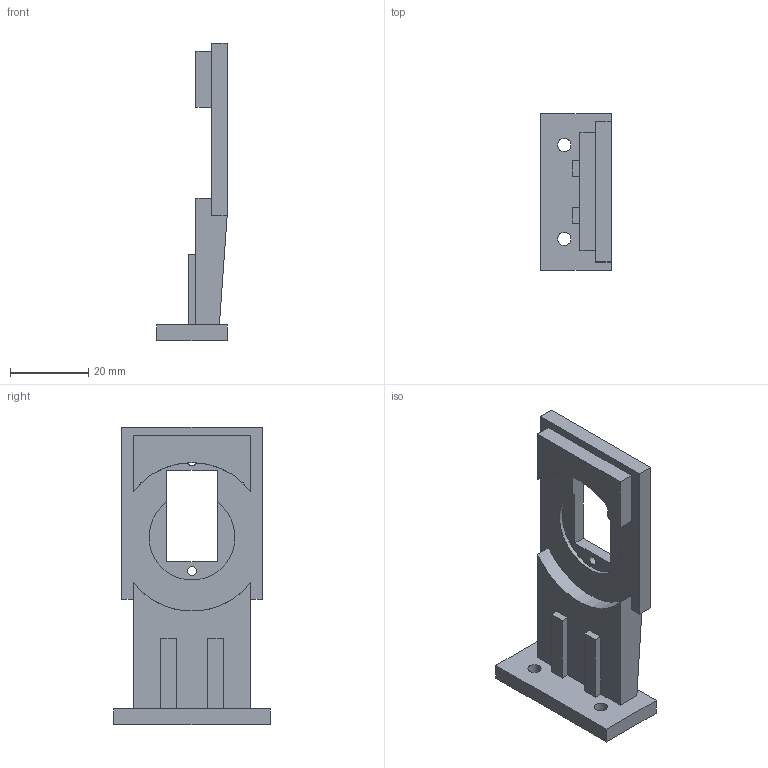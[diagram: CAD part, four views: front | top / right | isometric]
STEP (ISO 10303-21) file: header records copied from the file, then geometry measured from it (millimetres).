
FILE_DESCRIPTION(('FreeCAD Model'),'2;1');
FILE_NAME('Open CASCADE Shape Model','2026-11-17T03:52:43',('FreeCAD'),( 'FreeCAD'),'Open CASCADE STEP processor 7.8','FreeCAD','Unknown');
FILE_SCHEMA(('AUTOMOTIVE_DESIGN { 1 0 10303 214 1 1 1 1 }'));
Length unit declared in the file: millimetre
Products named in the file (1): Open CASCADE STEP translator 7.8 6
Bounding box: 18 x 40 x 76 mm (x, y, z)
Volume: 14931 mm3; surface area: 7967.4 mm2
Topology: 1 solids, 1 shells, 42 faces, 119 edges, 80 vertices
Faces by surface type: plane 35, cylinder 7
Full cylindrical faces by diameter (mm): 2.3 x2, 3.4 x2
Entity records: 1393 total; most frequent: CARTESIAN_POINT 242, ORIENTED_EDGE 238, DIRECTION 229, EDGE_CURVE 119, LINE 95, VECTOR 95, VERTEX_POINT 80, AXIS2_PLACEMENT_3D 67
